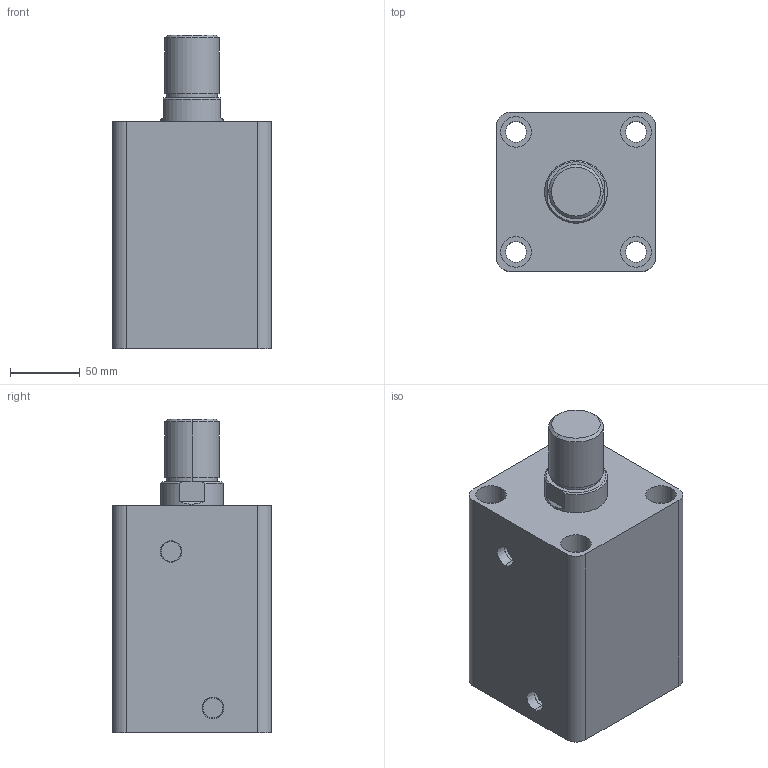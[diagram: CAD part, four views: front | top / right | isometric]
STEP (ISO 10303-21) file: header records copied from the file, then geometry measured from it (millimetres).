
FILE_DESCRIPTION (( 'STEP AP203' ), '1' );
FILE_NAME ('HTB-SD80-85W.STEP', '2019-10-07T08:38:31', ( '微软用户' ), ( '微软中国' ), 'SwSTEP 2.0', 'SolidWorks 2012', '' );
FILE_SCHEMA (( 'CONFIG_CONTROL_DESIGN' ));
Length unit declared in the file: millimetre
Products named in the file (3): HTB-SD80-85W; HTB-SD80-85W活塞杆; HTB-SD80-85掛极
Assembly tree (2 placements, depth 2):
  HTB-SD80-85W
    HTB-SD80-85掛极
    HTB-SD80-85W活塞杆
Bounding box: 114 x 114 x 225 mm (x, y, z)
Volume: 1748207.9 mm3; surface area: 212882.7 mm2
Topology: 2 solids, 2 shells, 87 faces, 190 edges, 124 vertices
Faces by surface type: cylinder 44, plane 29, cone 8, torus 6
Entity records: 2761 total; most frequent: DIRECTION 478, CARTESIAN_POINT 434, ORIENTED_EDGE 380, AXIS2_PLACEMENT_3D 204, EDGE_CURVE 190, VERTEX_POINT 124, EDGE_LOOP 112, CIRCLE 112
